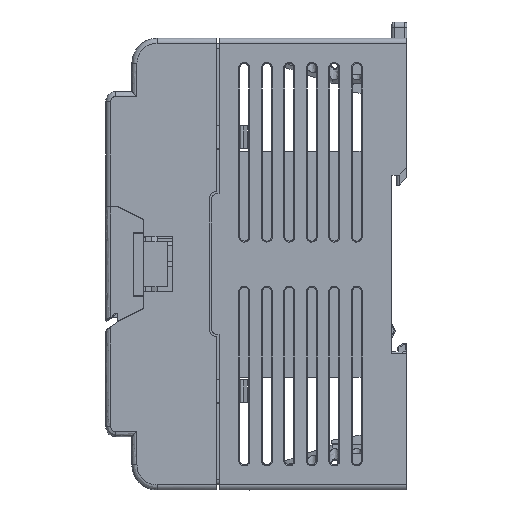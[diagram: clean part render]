
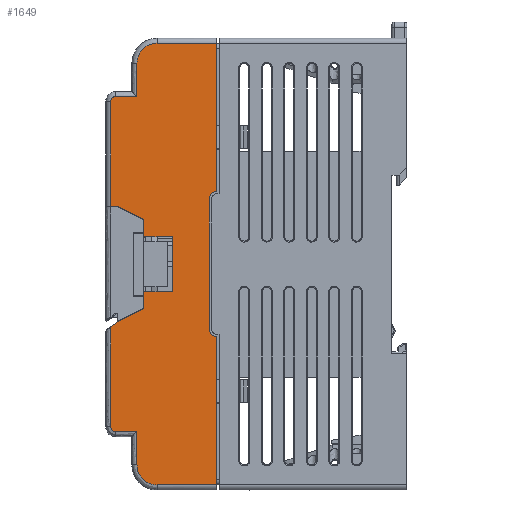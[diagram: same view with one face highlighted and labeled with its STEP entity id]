
A CAD part, left-side view. The second image highlights one B-rep face of the part: STEP entity #1649.
In plain terms, the highlighted planar face has unit normal (-1, 0, 0).
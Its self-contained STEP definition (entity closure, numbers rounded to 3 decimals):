
#1649=ADVANCED_FACE('',(#4279),#40041,.T.);
#4279=FACE_OUTER_BOUND('',#6766,.T.);
#6766=EDGE_LOOP('',(#16077,#16078,#16079,#16080,#16081,#16082,#16083,#16084,
#16085,#16086,#16087,#16088,#16089,#16090,#16091,#16092,#16093,#16094,#16095,
#16096,#16097,#16098,#16099,#16100,#16101,#16102));
#16077=ORIENTED_EDGE('',*,*,#25149,.T.);
#16078=ORIENTED_EDGE('',*,*,#25168,.T.);
#16079=ORIENTED_EDGE('',*,*,#25199,.T.);
#16080=ORIENTED_EDGE('',*,*,#25206,.T.);
#16081=ORIENTED_EDGE('',*,*,#25167,.T.);
#16082=ORIENTED_EDGE('',*,*,#25166,.T.);
#16083=ORIENTED_EDGE('',*,*,#25165,.T.);
#16084=ORIENTED_EDGE('',*,*,#25164,.T.);
#16085=ORIENTED_EDGE('',*,*,#25163,.T.);
#16086=ORIENTED_EDGE('',*,*,#25162,.T.);
#16087=ORIENTED_EDGE('',*,*,#25161,.T.);
#16088=ORIENTED_EDGE('',*,*,#27452,.T.);
#16089=ORIENTED_EDGE('',*,*,#25160,.T.);
#16090=ORIENTED_EDGE('',*,*,#27453,.T.);
#16091=ORIENTED_EDGE('',*,*,#25159,.T.);
#16092=ORIENTED_EDGE('',*,*,#25158,.T.);
#16093=ORIENTED_EDGE('',*,*,#25157,.T.);
#16094=ORIENTED_EDGE('',*,*,#25156,.T.);
#16095=ORIENTED_EDGE('',*,*,#25155,.T.);
#16096=ORIENTED_EDGE('',*,*,#25154,.T.);
#16097=ORIENTED_EDGE('',*,*,#25153,.T.);
#16098=ORIENTED_EDGE('',*,*,#25152,.T.);
#16099=ORIENTED_EDGE('',*,*,#27301,.T.);
#16100=ORIENTED_EDGE('',*,*,#25151,.T.);
#16101=ORIENTED_EDGE('',*,*,#25140,.T.);
#16102=ORIENTED_EDGE('',*,*,#25150,.T.);
#25140=EDGE_CURVE('',#36773,#36774,#31987,.T.);
#25149=EDGE_CURVE('',#36780,#36781,#31996,.T.);
#25150=EDGE_CURVE('',#36774,#36780,#31997,.T.);
#25151=EDGE_CURVE('',#36782,#36773,#31998,.T.);
#25152=EDGE_CURVE('',#36784,#36783,#31999,.T.);
#25153=EDGE_CURVE('',#36785,#36784,#32000,.T.);
#25154=EDGE_CURVE('',#36786,#36785,#28689,.T.);
#25155=EDGE_CURVE('',#36787,#36786,#32001,.T.);
#25156=EDGE_CURVE('',#36788,#36787,#32002,.T.);
#25157=EDGE_CURVE('',#36789,#36788,#28690,.T.);
#25158=EDGE_CURVE('',#36790,#36789,#32003,.T.);
#25159=EDGE_CURVE('',#36791,#36790,#32004,.T.);
#25160=EDGE_CURVE('',#36793,#36792,#32005,.T.);
#25161=EDGE_CURVE('',#36795,#36794,#32006,.T.);
#25162=EDGE_CURVE('',#36796,#36795,#32007,.T.);
#25163=EDGE_CURVE('',#36797,#36796,#28691,.T.);
#25164=EDGE_CURVE('',#36798,#36797,#32008,.T.);
#25165=EDGE_CURVE('',#36799,#36798,#32009,.T.);
#25166=EDGE_CURVE('',#36800,#36799,#28692,.T.);
#25167=EDGE_CURVE('',#36801,#36800,#32010,.T.);
#25168=EDGE_CURVE('',#36781,#36803,#32011,.T.);
#25199=EDGE_CURVE('',#36803,#36802,#32042,.T.);
#25206=EDGE_CURVE('',#36802,#36801,#32049,.T.);
#27301=EDGE_CURVE('',#36783,#36782,#33966,.T.);
#27452=EDGE_CURVE('',#36794,#36793,#28892,.T.);
#27453=EDGE_CURVE('',#36792,#36791,#28893,.T.);
#28689=(
BOUNDED_CURVE()
B_SPLINE_CURVE(2,(#94261,#94262,#94263),.UNSPECIFIED.,.F.,.F.)
B_SPLINE_CURVE_WITH_KNOTS((3,3),(-1.571,0.),.UNSPECIFIED.)
CURVE()
GEOMETRIC_REPRESENTATION_ITEM()
RATIONAL_B_SPLINE_CURVE((1.,0.707,1.))
REPRESENTATION_ITEM('')
);
#28690=(
BOUNDED_CURVE()
B_SPLINE_CURVE(2,(#94268,#94269,#94270),.UNSPECIFIED.,.F.,.F.)
B_SPLINE_CURVE_WITH_KNOTS((3,3),(-6.283,0.),.UNSPECIFIED.)
CURVE()
GEOMETRIC_REPRESENTATION_ITEM()
RATIONAL_B_SPLINE_CURVE((1.,0.707,1.))
REPRESENTATION_ITEM('')
);
#28691=(
BOUNDED_CURVE()
B_SPLINE_CURVE(2,(#94281,#94282,#94283),.UNSPECIFIED.,.F.,.F.)
B_SPLINE_CURVE_WITH_KNOTS((3,3),(-6.283,0.),.UNSPECIFIED.)
CURVE()
GEOMETRIC_REPRESENTATION_ITEM()
RATIONAL_B_SPLINE_CURVE((1.,0.707,1.))
REPRESENTATION_ITEM('')
);
#28692=(
BOUNDED_CURVE()
B_SPLINE_CURVE(2,(#94288,#94289,#94290),.UNSPECIFIED.,.F.,.F.)
B_SPLINE_CURVE_WITH_KNOTS((3,3),(-1.571,0.),.UNSPECIFIED.)
CURVE()
GEOMETRIC_REPRESENTATION_ITEM()
RATIONAL_B_SPLINE_CURVE((1.,0.707,1.))
REPRESENTATION_ITEM('')
);
#28892=(
BOUNDED_CURVE()
B_SPLINE_CURVE(2,(#99342,#99343,#99344),.UNSPECIFIED.,.F.,.F.)
B_SPLINE_CURVE_WITH_KNOTS((3,3),(0.,2.356),.UNSPECIFIED.)
CURVE()
GEOMETRIC_REPRESENTATION_ITEM()
RATIONAL_B_SPLINE_CURVE((1.,0.707,1.))
REPRESENTATION_ITEM('')
);
#28893=(
BOUNDED_CURVE()
B_SPLINE_CURVE(2,(#99345,#99346,#99347),.UNSPECIFIED.,.F.,.F.)
B_SPLINE_CURVE_WITH_KNOTS((3,3),(0.,2.356),.UNSPECIFIED.)
CURVE()
GEOMETRIC_REPRESENTATION_ITEM()
RATIONAL_B_SPLINE_CURVE((1.,0.707,1.))
REPRESENTATION_ITEM('')
);
#31987=B_SPLINE_CURVE_WITH_KNOTS('',1,(#94233,#94234),.UNSPECIFIED.,.F.,
 .F.,(2,2),(0.,5.6),.UNSPECIFIED.);
#31996=B_SPLINE_CURVE_WITH_KNOTS('',1,(#94251,#94252),.UNSPECIFIED.,.F.,
 .F.,(2,2),(-5.6,0.),.UNSPECIFIED.);
#31997=B_SPLINE_CURVE_WITH_KNOTS('',1,(#94253,#94254),.UNSPECIFIED.,.F.,
 .F.,(2,2),(-11.,0.),.UNSPECIFIED.);
#31998=B_SPLINE_CURVE_WITH_KNOTS('',1,(#94255,#94256),.UNSPECIFIED.,.F.,
 .F.,(2,2),(-3.4,0.),.UNSPECIFIED.);
#31999=B_SPLINE_CURVE_WITH_KNOTS('',1,(#94257,#94258),.UNSPECIFIED.,.F.,
 .F.,(2,2),(-1.4,0.),.UNSPECIFIED.);
#32000=B_SPLINE_CURVE_WITH_KNOTS('',1,(#94259,#94260),.UNSPECIFIED.,.F.,
 .F.,(2,2),(-20.9,0.),.UNSPECIFIED.);
#32001=B_SPLINE_CURVE_WITH_KNOTS('',1,(#94264,#94265),.UNSPECIFIED.,.F.,
 .F.,(2,2),(-4.2,0.),.UNSPECIFIED.);
#32002=B_SPLINE_CURVE_WITH_KNOTS('',1,(#94266,#94267),.UNSPECIFIED.,.F.,
 .F.,(2,2),(-6.6,0.),.UNSPECIFIED.);
#32003=B_SPLINE_CURVE_WITH_KNOTS('',1,(#94271,#94272),.UNSPECIFIED.,.F.,
 .F.,(2,2),(-11.9,0.),.UNSPECIFIED.);
#32004=B_SPLINE_CURVE_WITH_KNOTS('',1,(#94273,#94274),.UNSPECIFIED.,.F.,
 .F.,(2,2),(-29.5,0.),.UNSPECIFIED.);
#32005=B_SPLINE_CURVE_WITH_KNOTS('',1,(#94275,#94276),.UNSPECIFIED.,.F.,
 .F.,(2,2),(-26.,0.),.UNSPECIFIED.);
#32006=B_SPLINE_CURVE_WITH_KNOTS('',1,(#94277,#94278),.UNSPECIFIED.,.F.,
 .F.,(2,2),(-29.5,0.),.UNSPECIFIED.);
#32007=B_SPLINE_CURVE_WITH_KNOTS('',1,(#94279,#94280),.UNSPECIFIED.,.F.,
 .F.,(2,2),(-11.9,0.),.UNSPECIFIED.);
#32008=B_SPLINE_CURVE_WITH_KNOTS('',1,(#94284,#94285),.UNSPECIFIED.,.F.,
 .F.,(2,2),(-6.6,0.),.UNSPECIFIED.);
#32009=B_SPLINE_CURVE_WITH_KNOTS('',1,(#94286,#94287),.UNSPECIFIED.,.F.,
 .F.,(2,2),(-4.2,0.),.UNSPECIFIED.);
#32010=B_SPLINE_CURVE_WITH_KNOTS('',1,(#94291,#94292),.UNSPECIFIED.,.F.,
 .F.,(2,2),(-19.908,0.),.UNSPECIFIED.);
#32011=B_SPLINE_CURVE_WITH_KNOTS('',1,(#94293,#94294),.UNSPECIFIED.,.F.,
 .F.,(2,2),(-3.4,0.),.UNSPECIFIED.);
#32042=B_SPLINE_CURVE_WITH_KNOTS('',1,(#94355,#94356),.UNSPECIFIED.,.F.,
 .F.,(2,2),(0.,5.814),.UNSPECIFIED.);
#32049=B_SPLINE_CURVE_WITH_KNOTS('',1,(#94375,#94376),.UNSPECIFIED.,.F.,
 .F.,(2,2),(0.,1.716),.UNSPECIFIED.);
#33966=B_SPLINE_CURVE_WITH_KNOTS('',1,(#98995,#98996),.UNSPECIFIED.,.F.,
 .F.,(2,2),(0.,5.814),.UNSPECIFIED.);
#36773=VERTEX_POINT('',#92619);
#36774=VERTEX_POINT('',#92620);
#36780=VERTEX_POINT('',#92626);
#36781=VERTEX_POINT('',#92627);
#36782=VERTEX_POINT('',#92628);
#36783=VERTEX_POINT('',#92629);
#36784=VERTEX_POINT('',#92630);
#36785=VERTEX_POINT('',#92631);
#36786=VERTEX_POINT('',#92632);
#36787=VERTEX_POINT('',#92633);
#36788=VERTEX_POINT('',#92634);
#36789=VERTEX_POINT('',#92635);
#36790=VERTEX_POINT('',#92636);
#36791=VERTEX_POINT('',#92637);
#36792=VERTEX_POINT('',#92638);
#36793=VERTEX_POINT('',#92639);
#36794=VERTEX_POINT('',#92640);
#36795=VERTEX_POINT('',#92641);
#36796=VERTEX_POINT('',#92642);
#36797=VERTEX_POINT('',#92643);
#36798=VERTEX_POINT('',#92644);
#36799=VERTEX_POINT('',#92645);
#36800=VERTEX_POINT('',#92646);
#36801=VERTEX_POINT('',#92647);
#36802=VERTEX_POINT('',#92648);
#36803=VERTEX_POINT('',#92649);
#40041=PLANE('',#41632);
#41632=AXIS2_PLACEMENT_3D('',#89207,#43102,$);
#43102=DIRECTION('',(-1.,0.,0.));
#89207=CARTESIAN_POINT('',(-30.,-1.744,-52.934));
#92619=CARTESIAN_POINT('',(-30.,15.,5.5));
#92620=CARTESIAN_POINT('',(-30.,9.4,5.5));
#92626=CARTESIAN_POINT('',(-30.,9.4,-5.5));
#92627=CARTESIAN_POINT('',(-30.,15.,-5.5));
#92628=CARTESIAN_POINT('',(-30.,15.,8.9));
#92629=CARTESIAN_POINT('',(-30.,20.2,11.5));
#92630=CARTESIAN_POINT('',(-30.,21.6,11.5));
#92631=CARTESIAN_POINT('',(-30.,21.6,32.4));
#92632=CARTESIAN_POINT('',(-30.,20.6,33.4));
#92633=CARTESIAN_POINT('',(-30.,16.4,33.4));
#92634=CARTESIAN_POINT('',(-30.,16.4,40.));
#92635=CARTESIAN_POINT('',(-30.,12.4,44.));
#92636=CARTESIAN_POINT('',(-30.,0.5,44.));
#92637=CARTESIAN_POINT('',(-30.,0.5,14.5));
#92638=CARTESIAN_POINT('',(-30.,2.,13.));
#92639=CARTESIAN_POINT('',(-30.,2.,-13.));
#92640=CARTESIAN_POINT('',(-30.,0.5,-14.5));
#92641=CARTESIAN_POINT('',(-30.,0.5,-44.));
#92642=CARTESIAN_POINT('',(-30.,12.4,-44.));
#92643=CARTESIAN_POINT('',(-30.,16.4,-40.));
#92644=CARTESIAN_POINT('',(-30.,16.4,-33.4));
#92645=CARTESIAN_POINT('',(-30.,20.6,-33.4));
#92646=CARTESIAN_POINT('',(-30.,21.6,-32.4));
#92647=CARTESIAN_POINT('',(-30.,21.6,-12.492));
#92648=CARTESIAN_POINT('',(-30.,20.2,-11.5));
#92649=CARTESIAN_POINT('',(-30.,15.,-8.9));
#94233=CARTESIAN_POINT('',(-30.,15.,5.5));
#94234=CARTESIAN_POINT('',(-30.,9.4,5.5));
#94251=CARTESIAN_POINT('',(-30.,9.4,-5.5));
#94252=CARTESIAN_POINT('',(-30.,15.,-5.5));
#94253=CARTESIAN_POINT('',(-30.,9.4,5.5));
#94254=CARTESIAN_POINT('',(-30.,9.4,-5.5));
#94255=CARTESIAN_POINT('',(-30.,15.,8.9));
#94256=CARTESIAN_POINT('',(-30.,15.,5.5));
#94257=CARTESIAN_POINT('',(-30.,21.6,11.5));
#94258=CARTESIAN_POINT('',(-30.,20.2,11.5));
#94259=CARTESIAN_POINT('',(-30.,21.6,32.4));
#94260=CARTESIAN_POINT('',(-30.,21.6,11.5));
#94261=CARTESIAN_POINT('',(-30.,20.6,33.4));
#94262=CARTESIAN_POINT('',(-30.,21.6,33.4));
#94263=CARTESIAN_POINT('',(-30.,21.6,32.4));
#94264=CARTESIAN_POINT('',(-30.,16.4,33.4));
#94265=CARTESIAN_POINT('',(-30.,20.6,33.4));
#94266=CARTESIAN_POINT('',(-30.,16.4,40.));
#94267=CARTESIAN_POINT('',(-30.,16.4,33.4));
#94268=CARTESIAN_POINT('',(-30.,12.4,44.));
#94269=CARTESIAN_POINT('',(-30.,16.4,44.));
#94270=CARTESIAN_POINT('',(-30.,16.4,40.));
#94271=CARTESIAN_POINT('',(-30.,0.5,44.));
#94272=CARTESIAN_POINT('',(-30.,12.4,44.));
#94273=CARTESIAN_POINT('',(-30.,0.5,14.5));
#94274=CARTESIAN_POINT('',(-30.,0.5,44.));
#94275=CARTESIAN_POINT('',(-30.,2.,-13.));
#94276=CARTESIAN_POINT('',(-30.,2.,13.));
#94277=CARTESIAN_POINT('',(-30.,0.5,-44.));
#94278=CARTESIAN_POINT('',(-30.,0.5,-14.5));
#94279=CARTESIAN_POINT('',(-30.,12.4,-44.));
#94280=CARTESIAN_POINT('',(-30.,0.5,-44.));
#94281=CARTESIAN_POINT('',(-30.,16.4,-40.));
#94282=CARTESIAN_POINT('',(-30.,16.4,-44.));
#94283=CARTESIAN_POINT('',(-30.,12.4,-44.));
#94284=CARTESIAN_POINT('',(-30.,16.4,-33.4));
#94285=CARTESIAN_POINT('',(-30.,16.4,-40.));
#94286=CARTESIAN_POINT('',(-30.,20.6,-33.4));
#94287=CARTESIAN_POINT('',(-30.,16.4,-33.4));
#94288=CARTESIAN_POINT('',(-30.,21.6,-32.4));
#94289=CARTESIAN_POINT('',(-30.,21.6,-33.4));
#94290=CARTESIAN_POINT('',(-30.,20.6,-33.4));
#94291=CARTESIAN_POINT('',(-30.,21.6,-12.492));
#94292=CARTESIAN_POINT('',(-30.,21.6,-32.4));
#94293=CARTESIAN_POINT('',(-30.,15.,-5.5));
#94294=CARTESIAN_POINT('',(-30.,15.,-8.9));
#94355=CARTESIAN_POINT('',(-30.,15.,-8.9));
#94356=CARTESIAN_POINT('',(-30.,20.2,-11.5));
#94375=CARTESIAN_POINT('',(-30.,20.2,-11.5));
#94376=CARTESIAN_POINT('',(-30.,21.6,-12.492));
#98995=CARTESIAN_POINT('',(-30.,20.2,11.5));
#98996=CARTESIAN_POINT('',(-30.,15.,8.9));
#99342=CARTESIAN_POINT('',(-30.,0.5,-14.5));
#99343=CARTESIAN_POINT('',(-30.,2.,-14.5));
#99344=CARTESIAN_POINT('',(-30.,2.,-13.));
#99345=CARTESIAN_POINT('',(-30.,2.,13.));
#99346=CARTESIAN_POINT('',(-30.,2.,14.5));
#99347=CARTESIAN_POINT('',(-30.,0.5,14.5));
